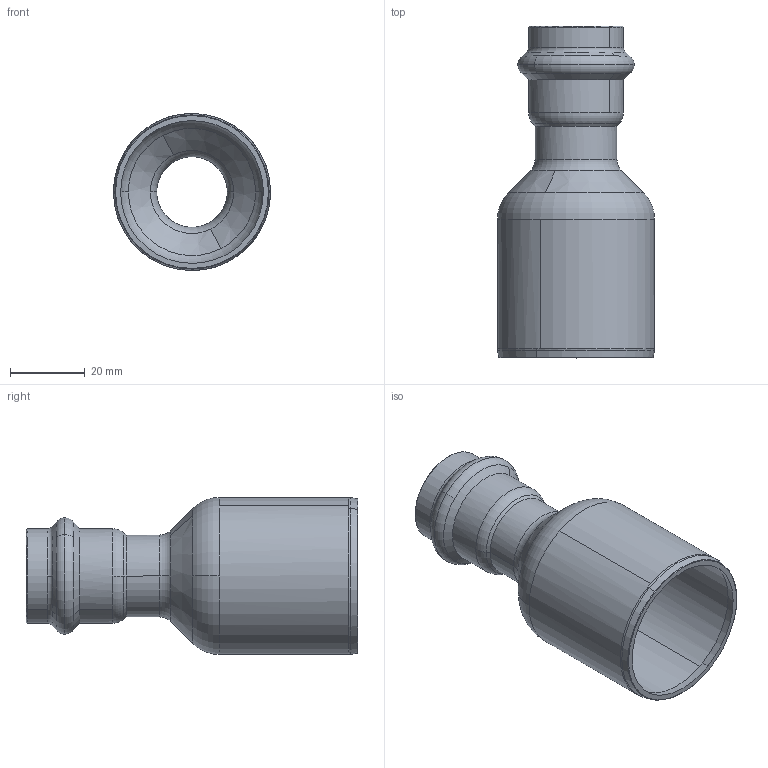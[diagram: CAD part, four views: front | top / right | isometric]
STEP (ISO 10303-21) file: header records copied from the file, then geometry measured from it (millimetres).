
FILE_DESCRIPTION(('CoCreate Modeling STEP Export'),'2;1');
FILE_NAME('8243VW4222.stp','2013-03-05T 9:37:55',(''),(''),'CoCreate Modeling STEP processor for AP214 (Solid Model)','CoCreate Modeling 17.00A 17-Jun-2010 (C) Parametric Technology GmbH','');
FILE_SCHEMA(('AUTOMOTIVE_DESIGN { 1 0 10303 214 1 1 1 1 }'));
Length unit declared in the file: millimetre
Products named in the file (2): 8243VW4222
Assembly tree (1 placements, depth 2):
  8243VW4222
    8243VW4222
Bounding box: 42 x 88.71 x 41.99 mm (x, y, z)
Volume: 15233.7 mm3; surface area: 19209.4 mm2
Topology: 1 solids, 1 shells, 75 faces, 197 edges, 127 vertices
Faces by surface type: cone 26, torus 24, cylinder 20, plane 5
Entity records: 1832 total; most frequent: ORIENTED_EDGE 394, CARTESIAN_POINT 278, DIRECTION 256, EDGE_CURVE 197, VERTEX_POINT 127, AXIS2_PLACEMENT_3D 105, EDGE_LOOP 80, FACE_OUTER_BOUND 75
